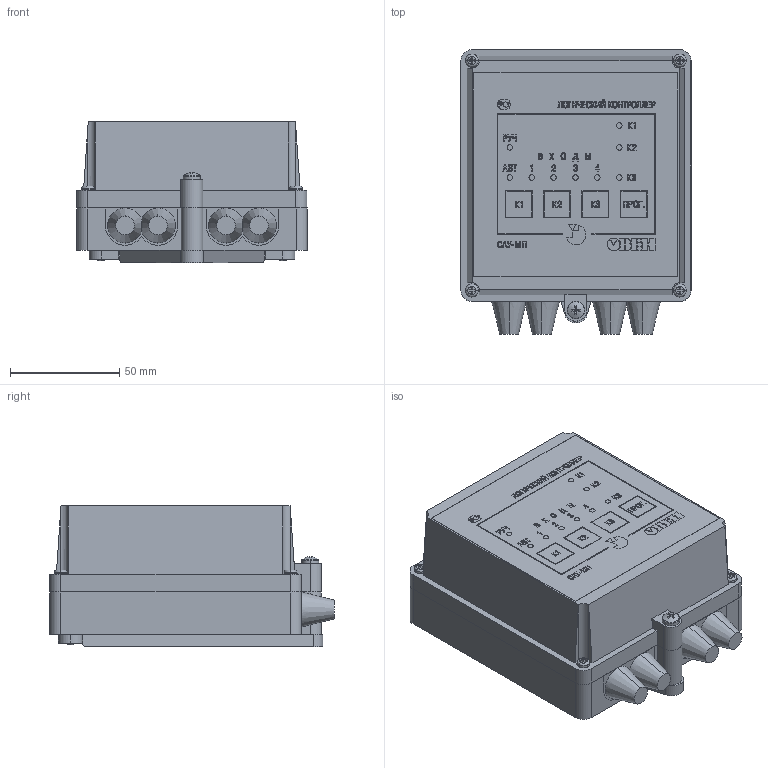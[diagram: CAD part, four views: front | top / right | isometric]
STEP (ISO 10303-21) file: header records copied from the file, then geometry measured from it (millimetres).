
FILE_DESCRIPTION (( 'STEP AP214' ), '1' );
FILE_NAME ('3D ﾑﾀﾓ-ﾌﾏ-ﾍ.STEP', '2015-07-27T12:22:46', ( '' ), ( '' ), 'SwSTEP 2.0', 'SolidWorks 2013', '' );
FILE_SCHEMA (( 'AUTOMOTIVE_DESIGN' ));
Length unit declared in the file: millimetre
Products named in the file (10): 鎔艜 襞旂 17473_M4x10; ÑÀÓ-ÌÏ_Øèëüäèê(ïåðåäíèé); Tøýª ¦4¿40-2_B18.6.7M - M4 x 0.7 x 40 Type I Cross Recessed PHMS --40N; ﾊ煇鳫; 砑鳧罻; 睯艜 膴樖樉; ч蜱齁膱; Êîðïóñ Í_íèç; 扻豵鵨 狉瞂贂; 3D ﾑﾀﾓ-ﾌﾏ-ﾍ
Assembly tree (14 placements, depth 2):
  3D ﾑﾀﾓ-ﾌﾏ-ﾍ
    扻豵鵨 狉瞂贂
    Êîðïóñ Í_íèç
    ч蜱齁膱  x2
    睯艜 膴樖樉  x4
    砑鳧罻
    ﾊ煇鳫
    Tøýª ¦4¿40-2_B18.6.7M - M4 x 0.7 x 40 Type I Cross Recessed PHMS --40N
    ÑÀÓ-ÌÏ_Øèëüäèê(ïåðåäíèé)
    鎔艜 襞旂 17473_M4x10  x2
Bounding box: 105.15 x 130 x 64.61 mm (x, y, z)
Volume: 153360.7 mm3; surface area: 130871.7 mm2
Topology: 33 solids, 33 shells, 1353 faces, 3493 edges, 2314 vertices
Faces by surface type: plane 944, bspline 246, cylinder 119, cone 20, torus 20, sphere 4
Entity records: 51306 total; most frequent: CARTESIAN_POINT 9980, ORIENTED_EDGE 6438, DIRECTION 4970, EDGE_CURVE 3219, VECTOR 2426, LINE 2426, VERTEX_POINT 2138, EDGE_LOOP 1369
